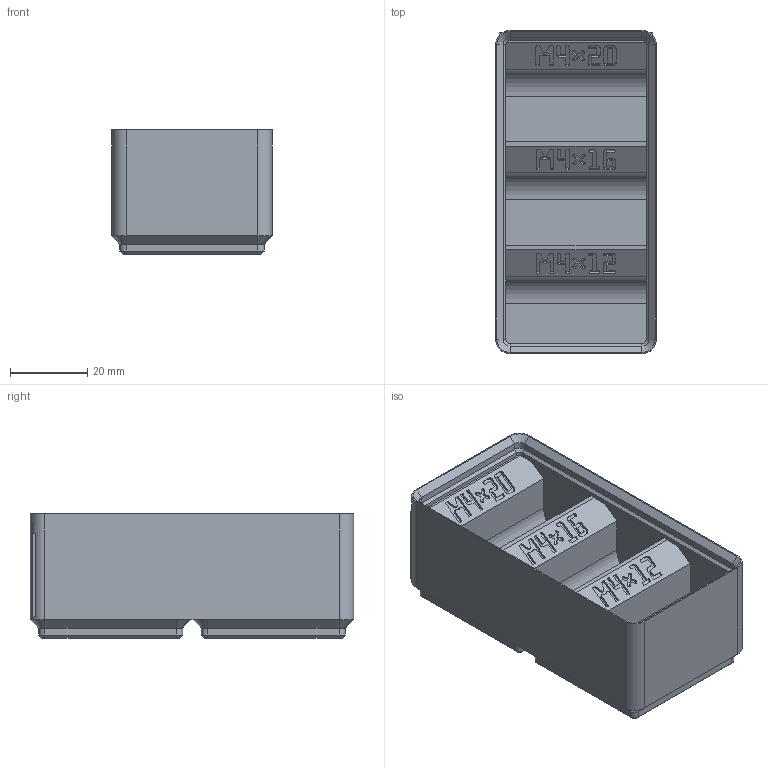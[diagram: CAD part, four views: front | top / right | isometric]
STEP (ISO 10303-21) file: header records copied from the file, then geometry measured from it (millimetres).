
FILE_DESCRIPTION(('Open CASCADE Model'),'2;1');
FILE_NAME('Open CASCADE Shape Model','2026-11-16T17:23:23',('Author'),( 'Open CASCADE'),'Open CASCADE STEP processor 8.0','build123d', 'Unknown');
FILE_SCHEMA(('AUTOMOTIVE_DESIGN { 1 0 10303 214 1 1 1 1 }'));
Products named in the file (1): COMPOUND
Bounding box: 41.5 x 83.5 x 32.1 mm (x, y, z)
Volume: 46091.6 mm3; surface area: 22451.4 mm2
Topology: 1 solids, 1 shells, 1586 faces, 4624 edges, 3062 vertices
Faces by surface type: plane 1533, cone 28, cylinder 25
Entity records: 111200 total; most frequent: CARTESIAN_POINT 18957, DIRECTION 16800, LINE 13438, VECTOR 13438, ORIENTED_EDGE 9248, PCURVE 9248, DEFINITIONAL_REPRESENTATION 9248, EDGE_CURVE 4624
